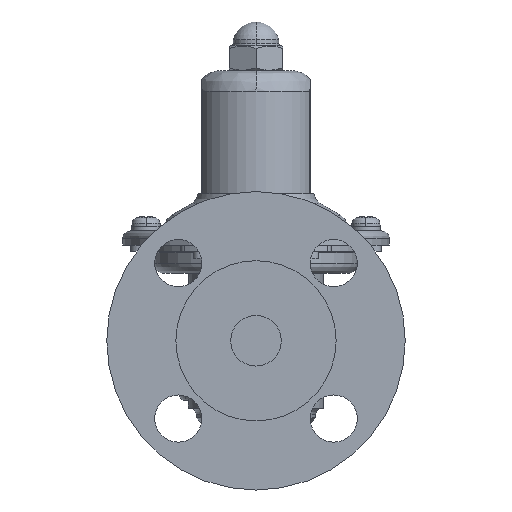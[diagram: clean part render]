
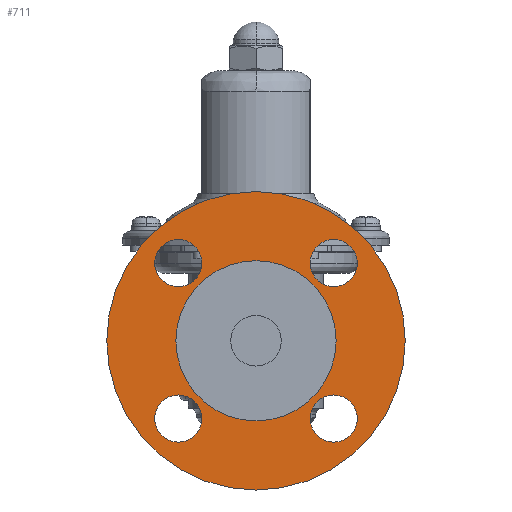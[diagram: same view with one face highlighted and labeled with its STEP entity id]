
A CAD part, left-side view. The second image highlights one B-rep face of the part: STEP entity #711.
In plain terms, the highlighted planar face has unit normal (-1, 0, 0).
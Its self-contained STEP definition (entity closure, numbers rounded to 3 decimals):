
#711=ADVANCED_FACE('',(#4467,#4468,#4469,#4470,#4471,#4472),#4466,.T.);
#4466=PLANE('',#8234);
#4467=FACE_OUTER_BOUND('',#8235,.T.);
#4468=FACE_BOUND('',#8236,.T.);
#4469=FACE_BOUND('',#8237,.T.);
#4470=FACE_BOUND('',#8238,.T.);
#4471=FACE_BOUND('',#8239,.T.);
#4472=FACE_BOUND('',#8240,.T.);
#8231=CARTESIAN_POINT('',(-96.5,-92.272,-105.));
#8232=DIRECTION('',(-1.,0.,0.));
#8233=DIRECTION('',(0.,0.,1.));
#8234=AXIS2_PLACEMENT_3D('',#8231,#8232,#8233);
#8235=EDGE_LOOP('',(#10784,#10785));
#8236=EDGE_LOOP('',(#10786,#10787));
#8237=EDGE_LOOP('',(#10788,#10789));
#8238=EDGE_LOOP('',(#10790,#10791));
#8239=EDGE_LOOP('',(#10792,#10793));
#8240=EDGE_LOOP('',(#10794,#10795));
#10784=ORIENTED_EDGE('',*,*,#12237,.F.);
#10785=ORIENTED_EDGE('',*,*,#12238,.F.);
#10786=ORIENTED_EDGE('',*,*,#12239,.T.);
#10787=ORIENTED_EDGE('',*,*,#12240,.T.);
#10788=ORIENTED_EDGE('',*,*,#12241,.T.);
#10789=ORIENTED_EDGE('',*,*,#12242,.T.);
#10790=ORIENTED_EDGE('',*,*,#12243,.T.);
#10791=ORIENTED_EDGE('',*,*,#12244,.T.);
#10792=ORIENTED_EDGE('',*,*,#12245,.T.);
#10793=ORIENTED_EDGE('',*,*,#12246,.T.);
#10794=ORIENTED_EDGE('',*,*,#12247,.F.);
#10795=ORIENTED_EDGE('',*,*,#12248,.F.);
#12237=EDGE_CURVE('',#19163,#19164,#19165,.T.);
#12238=EDGE_CURVE('',#19164,#19163,#19171,.T.);
#12239=EDGE_CURVE('',#19177,#19178,#19179,.T.);
#12240=EDGE_CURVE('',#19178,#19177,#19185,.T.);
#12241=EDGE_CURVE('',#19191,#19192,#19193,.T.);
#12242=EDGE_CURVE('',#19192,#19191,#19199,.T.);
#12243=EDGE_CURVE('',#19205,#19206,#19207,.T.);
#12244=EDGE_CURVE('',#19206,#19205,#19213,.T.);
#12245=EDGE_CURVE('',#19219,#19220,#19221,.T.);
#12246=EDGE_CURVE('',#19220,#19219,#19227,.T.);
#12247=EDGE_CURVE('',#19233,#19234,#19235,.T.);
#12248=EDGE_CURVE('',#19234,#19233,#19241,.T.);
#19163=VERTEX_POINT('',#24972);
#19164=VERTEX_POINT('',#24973);
#19165=CIRCLE('',#24977,47.5);
#19171=CIRCLE('',#24981,47.5);
#19177=VERTEX_POINT('',#24982);
#19178=VERTEX_POINT('',#24983);
#19179=CIRCLE('',#24987,7.5);
#19185=CIRCLE('',#24991,7.5);
#19191=VERTEX_POINT('',#24992);
#19192=VERTEX_POINT('',#24993);
#19193=CIRCLE('',#24997,7.5);
#19199=CIRCLE('',#25001,7.5);
#19205=VERTEX_POINT('',#25002);
#19206=VERTEX_POINT('',#25003);
#19207=CIRCLE('',#25007,7.5);
#19213=CIRCLE('',#25011,7.5);
#19219=VERTEX_POINT('',#25012);
#19220=VERTEX_POINT('',#25013);
#19221=CIRCLE('',#25017,7.5);
#19227=CIRCLE('',#25021,7.5);
#19233=VERTEX_POINT('',#25022);
#19234=VERTEX_POINT('',#25023);
#19235=CIRCLE('',#25027,25.5);
#19241=CIRCLE('',#25031,25.5);
#24972=CARTESIAN_POINT('',(-96.5,0.,-47.5));
#24973=CARTESIAN_POINT('',(-96.5,0.,47.5));
#24974=CARTESIAN_POINT('',(-96.5,0.,0.));
#24975=DIRECTION('',(1.,0.,0.));
#24976=DIRECTION('',(0.,0.,1.));
#24977=AXIS2_PLACEMENT_3D('',#24974,#24975,#24976);
#24978=CARTESIAN_POINT('',(-96.5,0.,0.));
#24979=DIRECTION('',(1.,0.,0.));
#24980=DIRECTION('',(0.,0.,1.));
#24981=AXIS2_PLACEMENT_3D('',#24978,#24979,#24980);
#24982=CARTESIAN_POINT('',(-96.5,24.749,-17.249));
#24983=CARTESIAN_POINT('',(-96.5,24.749,-32.249));
#24984=CARTESIAN_POINT('',(-96.5,24.749,-24.749));
#24985=DIRECTION('',(1.,0.,0.));
#24986=DIRECTION('',(0.,0.,1.));
#24987=AXIS2_PLACEMENT_3D('',#24984,#24985,#24986);
#24988=CARTESIAN_POINT('',(-96.5,24.749,-24.749));
#24989=DIRECTION('',(1.,0.,0.));
#24990=DIRECTION('',(0.,0.,1.));
#24991=AXIS2_PLACEMENT_3D('',#24988,#24989,#24990);
#24992=CARTESIAN_POINT('',(-96.5,-24.749,32.249));
#24993=CARTESIAN_POINT('',(-96.5,-24.749,17.249));
#24994=CARTESIAN_POINT('',(-96.5,-24.749,24.749));
#24995=DIRECTION('',(1.,0.,0.));
#24996=DIRECTION('',(0.,0.,1.));
#24997=AXIS2_PLACEMENT_3D('',#24994,#24995,#24996);
#24998=CARTESIAN_POINT('',(-96.5,-24.749,24.749));
#24999=DIRECTION('',(1.,0.,0.));
#25000=DIRECTION('',(0.,0.,1.));
#25001=AXIS2_PLACEMENT_3D('',#24998,#24999,#25000);
#25002=CARTESIAN_POINT('',(-96.5,24.749,32.249));
#25003=CARTESIAN_POINT('',(-96.5,24.749,17.249));
#25004=CARTESIAN_POINT('',(-96.5,24.749,24.749));
#25005=DIRECTION('',(1.,0.,0.));
#25006=DIRECTION('',(0.,0.,1.));
#25007=AXIS2_PLACEMENT_3D('',#25004,#25005,#25006);
#25008=CARTESIAN_POINT('',(-96.5,24.749,24.749));
#25009=DIRECTION('',(1.,0.,0.));
#25010=DIRECTION('',(0.,0.,1.));
#25011=AXIS2_PLACEMENT_3D('',#25008,#25009,#25010);
#25012=CARTESIAN_POINT('',(-96.5,-24.749,-17.249));
#25013=CARTESIAN_POINT('',(-96.5,-24.749,-32.249));
#25014=CARTESIAN_POINT('',(-96.5,-24.749,-24.749));
#25015=DIRECTION('',(1.,0.,0.));
#25016=DIRECTION('',(0.,0.,1.));
#25017=AXIS2_PLACEMENT_3D('',#25014,#25015,#25016);
#25018=CARTESIAN_POINT('',(-96.5,-24.749,-24.749));
#25019=DIRECTION('',(1.,0.,0.));
#25020=DIRECTION('',(0.,0.,1.));
#25021=AXIS2_PLACEMENT_3D('',#25018,#25019,#25020);
#25022=CARTESIAN_POINT('',(-96.5,0.,-25.5));
#25023=CARTESIAN_POINT('',(-96.5,0.,25.5));
#25024=CARTESIAN_POINT('',(-96.5,0.,0.));
#25025=DIRECTION('',(-1.,0.,0.));
#25026=DIRECTION('',(0.,0.,1.));
#25027=AXIS2_PLACEMENT_3D('',#25024,#25025,#25026);
#25028=CARTESIAN_POINT('',(-96.5,0.,0.));
#25029=DIRECTION('',(-1.,0.,0.));
#25030=DIRECTION('',(0.,0.,1.));
#25031=AXIS2_PLACEMENT_3D('',#25028,#25029,#25030);
